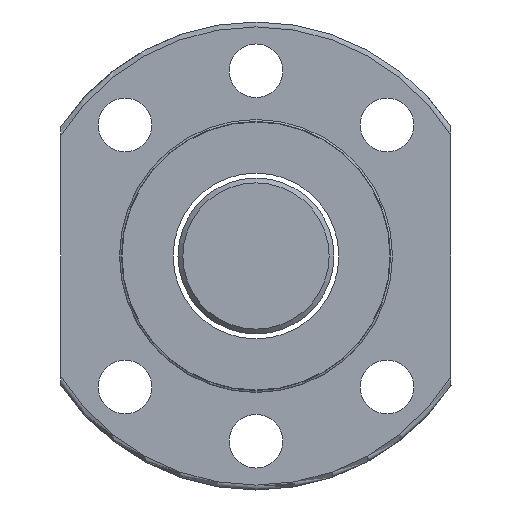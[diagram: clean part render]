
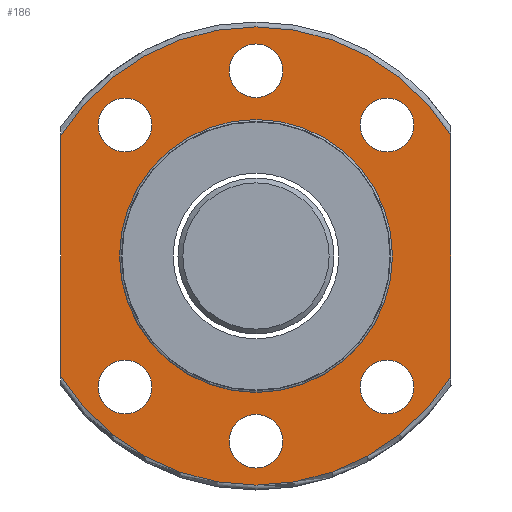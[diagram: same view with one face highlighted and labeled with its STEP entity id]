
A CAD part, left-side view. The second image highlights one B-rep face of the part: STEP entity #186.
In plain terms, the highlighted planar face has unit normal (-1, 0, 0).
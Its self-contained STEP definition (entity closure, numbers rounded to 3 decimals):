
#101=LINE('',#1086,#109);
#102=LINE('',#1087,#110);
#109=VECTOR('',#783,1.);
#110=VECTOR('',#784,1.);
#141=PLANE('',#647);
#161=FACE_OUTER_BOUND('',#314,.T.);
#186=ADVANCED_FACE('',(#240,#241,#242,#243,#244,#245,#246,#161),#141,.F.);
#240=FACE_BOUND('',#307,.T.);
#241=FACE_BOUND('',#308,.T.);
#242=FACE_BOUND('',#309,.T.);
#243=FACE_BOUND('',#310,.T.);
#244=FACE_BOUND('',#311,.T.);
#245=FACE_BOUND('',#312,.T.);
#246=FACE_BOUND('',#313,.T.);
#307=EDGE_LOOP('',(#400));
#308=EDGE_LOOP('',(#401));
#309=EDGE_LOOP('',(#402));
#310=EDGE_LOOP('',(#403));
#311=EDGE_LOOP('',(#404));
#312=EDGE_LOOP('',(#405));
#313=EDGE_LOOP('',(#406));
#314=EDGE_LOOP('',(#407,#408,#409,#410));
#400=ORIENTED_EDGE('',*,*,#539,.T.);
#401=ORIENTED_EDGE('',*,*,#540,.T.);
#402=ORIENTED_EDGE('',*,*,#541,.T.);
#403=ORIENTED_EDGE('',*,*,#542,.T.);
#404=ORIENTED_EDGE('',*,*,#543,.T.);
#405=ORIENTED_EDGE('',*,*,#544,.T.);
#406=ORIENTED_EDGE('',*,*,#545,.T.);
#407=ORIENTED_EDGE('',*,*,#537,.F.);
#408=ORIENTED_EDGE('',*,*,#546,.T.);
#409=ORIENTED_EDGE('',*,*,#519,.F.);
#410=ORIENTED_EDGE('',*,*,#547,.F.);
#469=VERTEX_POINT('',#936);
#470=VERTEX_POINT('',#959);
#484=VERTEX_POINT('',#1049);
#485=VERTEX_POINT('',#1051);
#486=VERTEX_POINT('',#1073);
#487=VERTEX_POINT('',#1075);
#488=VERTEX_POINT('',#1077);
#489=VERTEX_POINT('',#1079);
#490=VERTEX_POINT('',#1081);
#491=VERTEX_POINT('',#1083);
#492=VERTEX_POINT('',#1085);
#519=EDGE_CURVE('',#470,#469,#568,.T.);
#537=EDGE_CURVE('',#484,#485,#579,.T.);
#539=EDGE_CURVE('',#486,#486,#580,.T.);
#540=EDGE_CURVE('',#487,#487,#581,.T.);
#541=EDGE_CURVE('',#488,#488,#582,.T.);
#542=EDGE_CURVE('',#489,#489,#583,.T.);
#543=EDGE_CURVE('',#490,#490,#584,.T.);
#544=EDGE_CURVE('',#491,#491,#585,.T.);
#545=EDGE_CURVE('',#492,#492,#586,.T.);
#546=EDGE_CURVE('',#484,#469,#101,.T.);
#547=EDGE_CURVE('',#485,#470,#102,.T.);
#568=CIRCLE('',#623,23.5);
#579=CIRCLE('',#638,23.5);
#580=CIRCLE('',#640,2.75);
#581=CIRCLE('',#641,2.75);
#582=CIRCLE('',#642,2.75);
#583=CIRCLE('',#643,2.75);
#584=CIRCLE('',#644,2.75);
#585=CIRCLE('',#645,2.75);
#586=CIRCLE('',#646,14.);
#623=AXIS2_PLACEMENT_3D('',#960,#731,#732);
#638=AXIS2_PLACEMENT_3D('',#1050,#765,#766);
#640=AXIS2_PLACEMENT_3D('',#1072,#769,#770);
#641=AXIS2_PLACEMENT_3D('',#1074,#771,#772);
#642=AXIS2_PLACEMENT_3D('',#1076,#773,#774);
#643=AXIS2_PLACEMENT_3D('',#1078,#775,#776);
#644=AXIS2_PLACEMENT_3D('',#1080,#777,#778);
#645=AXIS2_PLACEMENT_3D('',#1082,#779,#780);
#646=AXIS2_PLACEMENT_3D('',#1084,#781,#782);
#647=AXIS2_PLACEMENT_3D('',#1088,#785,#786);
#731=DIRECTION('',(1.,0.,0.));
#732=DIRECTION('',(0.,0.,-1.));
#765=DIRECTION('',(1.,0.,0.));
#766=DIRECTION('',(0.,0.,-1.));
#769=DIRECTION('',(1.,0.,0.));
#770=DIRECTION('',(0.,0.,-1.));
#771=DIRECTION('',(1.,0.,0.));
#772=DIRECTION('',(0.,0.,-1.));
#773=DIRECTION('',(1.,0.,0.));
#774=DIRECTION('',(0.,0.,-1.));
#775=DIRECTION('',(1.,0.,0.));
#776=DIRECTION('',(0.,0.,-1.));
#777=DIRECTION('',(1.,0.,0.));
#778=DIRECTION('',(0.,0.,-1.));
#779=DIRECTION('',(1.,0.,0.));
#780=DIRECTION('',(0.,0.,-1.));
#781=DIRECTION('',(1.,0.,0.));
#782=DIRECTION('',(0.,0.,-1.));
#783=DIRECTION('',(0.,0.,-1.));
#784=DIRECTION('',(0.,0.,-1.));
#785=DIRECTION('',(1.,0.,0.));
#786=DIRECTION('',(0.,0.,-1.));
#936=CARTESIAN_POINT('',(-27.646,20.,-12.339));
#959=CARTESIAN_POINT('',(-27.646,-20.,-12.339));
#960=CARTESIAN_POINT('',(-27.646,0.,0.));
#1049=CARTESIAN_POINT('',(-27.646,20.,12.339));
#1050=CARTESIAN_POINT('',(-27.646,0.,0.));
#1051=CARTESIAN_POINT('',(-27.646,-20.,12.339));
#1072=CARTESIAN_POINT('',(-27.646,0.,-19.));
#1073=CARTESIAN_POINT('',(-27.646,0.,-21.75));
#1074=CARTESIAN_POINT('',(-27.646,0.,19.));
#1075=CARTESIAN_POINT('',(-27.646,0.,16.25));
#1076=CARTESIAN_POINT('',(-27.646,13.435,-13.435));
#1077=CARTESIAN_POINT('',(-27.646,13.435,-16.185));
#1078=CARTESIAN_POINT('',(-27.646,-13.435,-13.435));
#1079=CARTESIAN_POINT('',(-27.646,-13.435,-16.185));
#1080=CARTESIAN_POINT('',(-27.646,-13.435,13.435));
#1081=CARTESIAN_POINT('',(-27.646,-13.435,10.685));
#1082=CARTESIAN_POINT('',(-27.646,13.435,13.435));
#1083=CARTESIAN_POINT('',(-27.646,13.435,10.685));
#1084=CARTESIAN_POINT('',(-27.646,0.,0.));
#1085=CARTESIAN_POINT('',(-27.646,0.,-14.));
#1086=CARTESIAN_POINT('',(-27.646,20.,0.));
#1087=CARTESIAN_POINT('',(-27.646,-20.,0.));
#1088=CARTESIAN_POINT('',(-27.646,18.75,0.));
